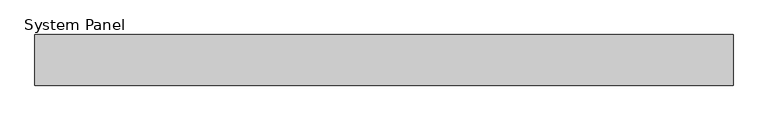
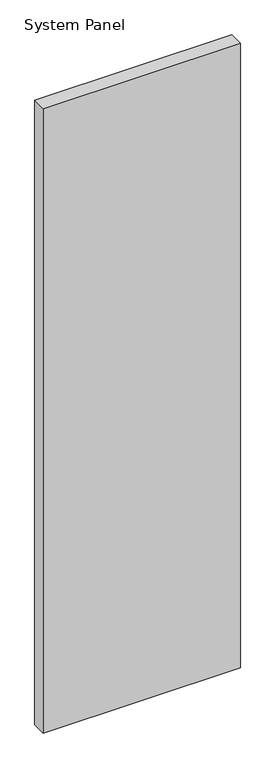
"""IFC4 building model written with IfcOpenShell, lengths in millimetres: plate geometry, System Panel : Inspire 80mm Vertical - Plain RHEA-PIR."""

from ifc_helpers import new_model, si_unit, origin, origin_with_axes, place, context, project, spatial, polyline, outline, extrude, source, transform, mapped, element, save


def system_panel_a79f1e6c(model_context):
    return source(origin(), model_context, "Body", "SweptSolid", [
        extrude(outline(polyline([(550.0, -80.0), (-550.0, -80.0), (-550.0, 0.0), (550.0, 0.0), (550.0, -80.0)])), origin_with_axes(), (0.0, 0.0, 1.0), 3679.9704237),
    ])


if __name__ == "__main__":
    model = new_model("IFC4")
    model_context = context("Model", 3, world=origin())
    ifc_project = project(units=[si_unit("LENGTHUNIT", "METRE", prefix="MILLI")], contexts=[model_context])
    site = spatial("IfcSite", under=ifc_project)
    building = spatial("IfcBuilding", under=site)
    placement = place(None, origin())
    system_panel_shape = system_panel_a79f1e6c(model_context)
    element("IfcPlate", 1, ObjectType="System Panel : Inspire 80mm Vertical - Plain RHEA-PIR", at=placement, inside=building, context=model_context, shape_type="MappedRepresentation", body=[
        mapped(system_panel_shape, transform((0.0, 0.0, 0.0), x_axis=(1.0, 0.0, 0.0), y_axis=(0.0, 1.0, 0.0), z_axis=(0.0, 0.0, 1.0))),
    ])
    save(model, "model.ifc")
